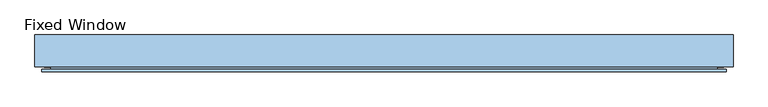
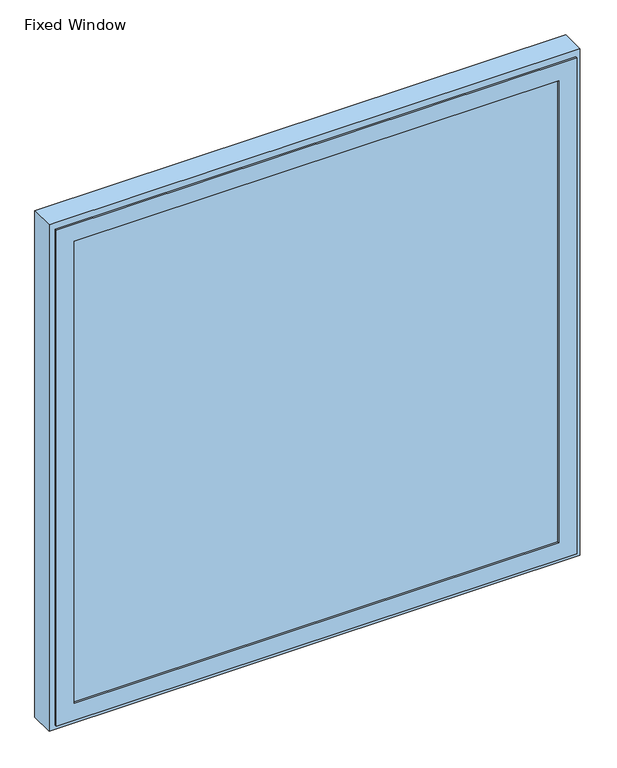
"""IFC4 building model written with IfcOpenShell, lengths in millimetres: window geometry, Windows_Fixed-Frames_Reynaers_SL-68_Fixed : Fixed Window."""

from ifc_helpers import new_model, si_unit, frame, origin, place, context, project, spatial, polyline, outline, extrude, faceted_brep, source, transform, mapped, element, save


def fixed_window_83cbd5bc(model_context):
    return source(origin(), model_context, "Body", "SolidModel", [
        extrude(outline(polyline([(686.0, -70.8), (-686.0, -70.8), (-686.0, -43.8), (686.0, -43.8), (686.0, -70.8)])), frame((0.0, 0.0, 854.0), z_axis=(0.0, 0.0, 1.0), x_axis=(1.0, 0.0, 0.0)), (0.0, 0.0, 1.0), 1382.0),
        extrude(outline(polyline([(851.0004537, 688.9995463), (2238.9995463, 688.9995463), (2238.9995463, -688.9995463), (851.0004537, -688.9995463), (851.0004537, 688.9995463)]), holes=[polyline([(2223.4995463, 673.4995463), (866.5004537, 673.4995463), (866.5004537, -673.4995463), (2223.4995463, -673.4995463), (2223.4995463, 673.4995463)])]), frame((0.0, -38.535618, 0.0), z_axis=(0.0, 1.0, 0.0), x_axis=(0.0, 0.0, 1.0)), (0.0, 0.0, 1.0), 26.5356284),
        faceted_brep([(705.8995463, -75.0, 2255.8995463), (705.8995463, -75.0, 834.1004537), (705.8995463, -11.9999897, 834.1004537), (705.8995463, -11.9999897, 2255.8995463), (725.0, -80.0, 2275.0), (725.0, -80.0, 815.0), (725.0, -75.0, 815.0), (725.0, -75.0, 2275.0), (675.0, -75.0, 2225.0), (675.0, -75.0, 865.0), (675.0, -80.0, 865.0), (675.0, -80.0, 2225.0), (688.9995463, -11.9999897, 2238.9995463), (688.9995463, -11.9999897, 851.0004537), (688.9995463, -75.0, 851.0004537), (688.9995463, -75.0, 2238.9995463), (-705.8995463, -75.0, 834.1004537), (-705.8995463, -11.9999897, 834.1004537), (-725.0, -80.0, 815.0), (-725.0, -75.0, 815.0), (-675.0, -75.0, 865.0), (-675.0, -80.0, 865.0), (-688.9995463, -11.9999897, 851.0004537), (-688.9995463, -75.0, 851.0004537), (-705.8995463, -75.0, 2255.8995463), (-705.8995463, -11.9999897, 2255.8995463), (-725.0, -80.0, 2275.0), (-725.0, -75.0, 2275.0), (-675.0, -75.0, 2225.0), (-675.0, -80.0, 2225.0), (-688.9995463, -11.9999897, 2238.9995463), (-688.9995463, -75.0, 2238.9995463)], [[[0, 1, 2, 3]], [[4, 5, 6, 7]], [[8, 9, 10, 11]], [[12, 13, 14, 15]], [[1, 16, 17, 2]], [[5, 18, 19, 6]], [[9, 20, 21, 10]], [[13, 22, 23, 14]], [[16, 24, 25, 17]], [[18, 26, 27, 19]], [[20, 28, 29, 21]], [[22, 30, 31, 23]], [[24, 0, 3, 25]], [[7, 6, 19, 27], [1, 0, 24, 16]], [[26, 4, 7, 27]], [[5, 4, 26, 18], [11, 10, 21, 29]], [[28, 8, 11, 29]], [[15, 14, 23, 31], [9, 8, 28, 20]], [[30, 12, 15, 31]], [[3, 2, 17, 25], [13, 12, 30, 22]]]),
        faceted_brep([(719.9167967, -7.0000033, 2269.9167967), (719.9167967, -7.0000033, 820.0832033), (719.9167967, -70.0, 820.0832033), (719.9167967, -70.0, 2269.9167967), (702.0, -2.0000033, 2252.0), (702.0, -2.0000033, 838.0), (702.0, -7.0000033, 838.0), (702.0, -7.0000033, 2252.0), (740.0, -70.0, 2290.0), (740.0, -70.0, 800.0), (740.0, -2.0000033, 800.0), (740.0, -2.0000033, 2290.0), (-719.9167967, -7.0000033, 820.0832033), (-719.9167967, -70.0, 820.0832033), (-702.0, -2.0000033, 838.0), (-702.0, -7.0000033, 838.0), (-740.0, -70.0, 800.0), (-740.0, -2.0000033, 800.0), (-719.9167967, -7.0000033, 2269.9167967), (-719.9167967, -70.0, 2269.9167967), (-702.0, -2.0000033, 2252.0), (-702.0, -7.0000033, 2252.0), (-740.0, -70.0, 2290.0), (-740.0, -2.0000033, 2290.0)], [[[0, 1, 2, 3]], [[4, 5, 6, 7]], [[8, 9, 10, 11]], [[1, 12, 13, 2]], [[5, 14, 15, 6]], [[9, 16, 17, 10]], [[12, 18, 19, 13]], [[14, 20, 21, 15]], [[16, 22, 23, 17]], [[18, 0, 3, 19]], [[1, 0, 18, 12], [7, 6, 15, 21]], [[20, 4, 7, 21]], [[11, 10, 17, 23], [5, 4, 20, 14]], [[22, 8, 11, 23]], [[9, 8, 22, 16], [3, 2, 13, 19]]]),
    ])


if __name__ == "__main__":
    model = new_model("IFC4")
    model_context = context("Model", 3, world=origin())
    ifc_project = project(units=[si_unit("LENGTHUNIT", "METRE", prefix="MILLI")], contexts=[model_context])
    site = spatial("IfcSite", under=ifc_project)
    building = spatial("IfcBuilding", under=site)
    placement = place(None, origin())
    fixed_window_shape = fixed_window_83cbd5bc(model_context)
    element("IfcWindow", 1, ObjectType="Windows_Fixed-Frames_Reynaers_SL-68_Fixed : Fixed Window", at=placement, inside=building, context=model_context, shape_type="MappedRepresentation", body=[
        mapped(fixed_window_shape, transform((0.0, 0.0, 0.0), x_axis=(1.0, 0.0, 0.0), y_axis=(0.0, 1.0, 0.0), z_axis=(0.0, 0.0, 1.0))),
    ])
    save(model, "model.ifc")
